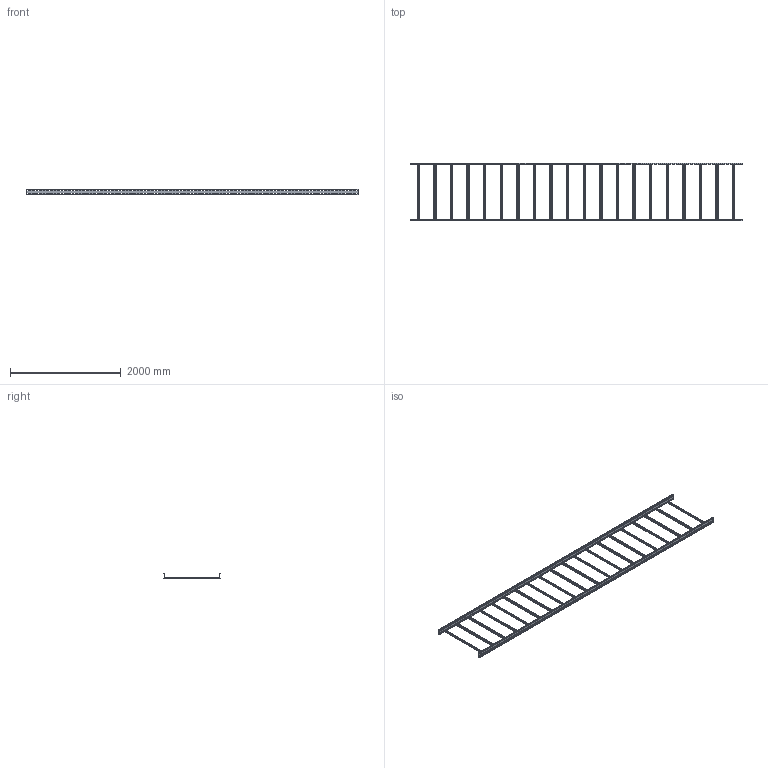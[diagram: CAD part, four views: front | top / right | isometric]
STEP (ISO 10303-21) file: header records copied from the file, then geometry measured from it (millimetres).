
FILE_DESCRIPTION(/* description */ ('','CAx-IF Rec.Pracs.---Representation and Presentation of Product Manufacturing Information (PMI)---4.0---2014-10-13'),/* implementation_level */ '2;1');
FILE_NAME(/* name */ 'Eurostrut_ECL100-1000-6_Cable Ladder.step',/* time_stamp */ '2026-09-03T12:02:42+02:00',/* author */ (''),/* organization */ (''),/* preprocessor_version */ 'ST-DEVELOPER v20.1',/* originating_system */ 'Autodesk Revit 2027 27.2.0.39',/* authorisation */ '');
FILE_SCHEMA (('AP242_MANAGED_MODEL_BASED_3D_ENGINEERING_MIM_LF { 1 0 10303 442 2 1 4 }'));
Products named in the file (4): TopLevelAssembly; 60mm; 60mm_1; Cable Ladder Rung_Slotted
Assembly tree (22 placements, depth 2):
  TopLevelAssembly
    60mm
    60mm_1
    Cable Ladder Rung_Slotted  x20
Bounding box: 6000 x 1046 x 100 mm (x, y, z)
Volume: 6105007.9 mm3; surface area: 7127959.1 mm2
Topology: 22 solids, 22 shells, 6340 faces, 18888 edges, 12592 vertices
Faces by surface type: plane 4236, bspline 2000, cylinder 104
Entity records: 77808 total; most frequent: CARTESIAN_POINT 16276, ORIENTED_EDGE 13152, DIRECTION 11080, EDGE_CURVE 6576, LINE 6320, VECTOR 6320, VERTEX_POINT 4384, EDGE_LOOP 3258
